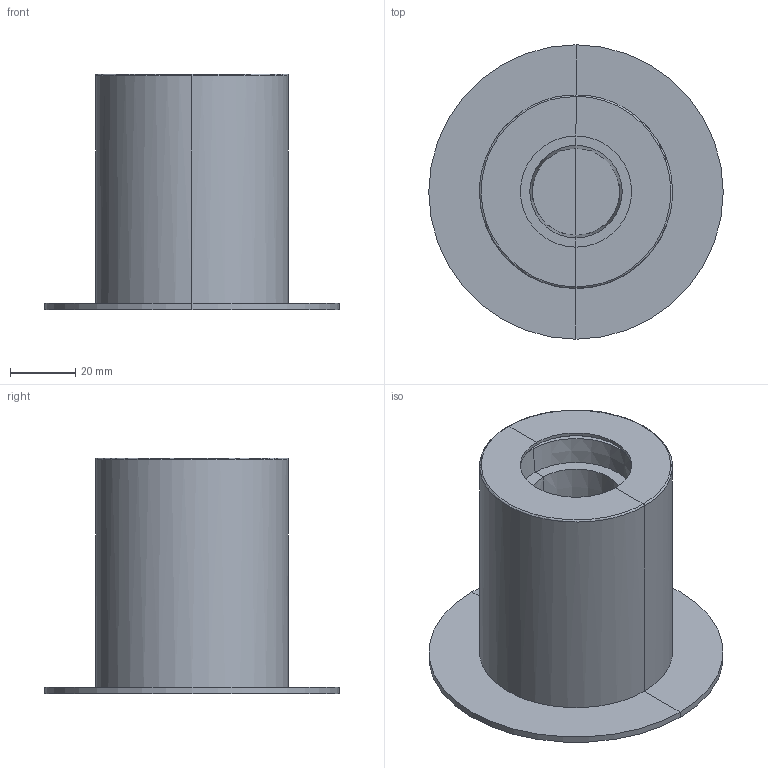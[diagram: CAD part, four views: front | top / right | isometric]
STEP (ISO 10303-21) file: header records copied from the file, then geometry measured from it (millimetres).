
FILE_DESCRIPTION(/* description */ (''),/* implementation_level */ '2;1');
FILE_NAME(/* name */ 'C:\Users\FrancoSartori\Documents\FARO\03_Completados\TEN\03_Publicación\62156.stp',/* time_stamp */ '2021-07-06T14:15:41+02:00',/* author */ ('FrancoSartori'),/* organization */ (''),/* preprocessor_version */ 'ST-DEVELOPER v18.1',/* originating_system */ 'AutoCAD Mechanical',/* authorisation */ '');
FILE_SCHEMA (('AUTOMOTIVE_DESIGN { 1 0 10303 214 3 1 1 }'));
Length unit declared in the file: millimetre
Products named in the file (2): Product; 62168_62169_TEN - TEN-452307-Export
Assembly tree (1 placements, depth 2):
  Product
    62168_62169_TEN - TEN-452307-Export
Bounding box: 90 x 90 x 72 mm (x, y, z)
Volume: 39374.7 mm3; surface area: 51450.5 mm2
Topology: 2 solids, 2 shells, 44 faces, 100 edges, 58 vertices
Faces by surface type: plane 18, cone 14, cylinder 10, torus 2
Entity records: 1389 total; most frequent: CARTESIAN_POINT 339, DIRECTION 226, ORIENTED_EDGE 200, EDGE_CURVE 100, AXIS2_PLACEMENT_3D 93, VERTEX_POINT 58, EDGE_LOOP 48, CIRCLE 46
